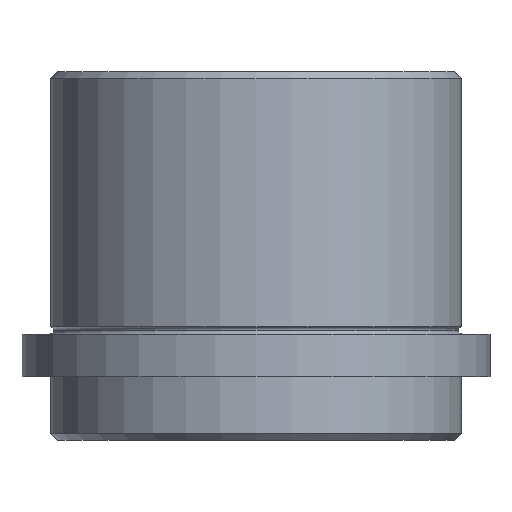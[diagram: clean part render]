
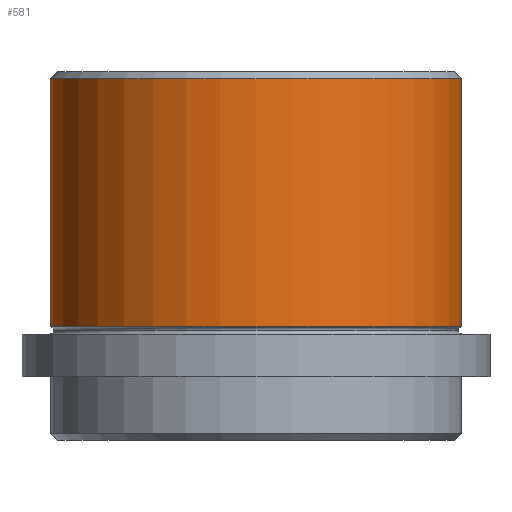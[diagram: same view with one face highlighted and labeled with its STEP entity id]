
A CAD part, front view. The second image highlights one B-rep face of the part: STEP entity #581.
In plain terms, the highlighted cylindrical face has radius 29 mm (diameter 58 mm), a partial arc.
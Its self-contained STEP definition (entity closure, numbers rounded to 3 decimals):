
#100 = LINE ( 'NONE', #424, #336 ) ;
#136 = AXIS2_PLACEMENT_3D ( 'NONE', #655, #654, #653 ) ;
#138 = ORIENTED_EDGE ( 'NONE', *, *, #630, .F. ) ;
#180 = CYLINDRICAL_SURFACE ( 'NONE', #793, 29. ) ;
#196 = CARTESIAN_POINT ( 'NONE',  ( 29., 0., -1. ) ) ;
#200 = CARTESIAN_POINT ( 'NONE',  ( -29., 0., -36. ) ) ;
#226 = EDGE_CURVE ( 'NONE', #770, #412, #671, .T. ) ;
#247 = DIRECTION ( 'NONE',  ( 0., 0., 1. ) ) ;
#253 = DIRECTION ( 'NONE',  ( 1., 0., 0. ) ) ;
#257 = DIRECTION ( 'NONE',  ( 0., 0., 1. ) ) ;
#259 = CARTESIAN_POINT ( 'NONE',  ( 0., 0., -36. ) ) ;
#267 = CARTESIAN_POINT ( 'NONE',  ( 29., 0., 0. ) ) ;
#334 = FACE_OUTER_BOUND ( 'NONE', #370, .T. ) ;
#336 = VECTOR ( 'NONE', #352, 1000. ) ;
#343 = ORIENTED_EDGE ( 'NONE', *, *, #464, .T. ) ;
#352 = DIRECTION ( 'NONE',  ( 0., 0., 1. ) ) ;
#370 = EDGE_LOOP ( 'NONE', ( #138, #421, #666, #343 ) ) ;
#407 = CARTESIAN_POINT ( 'NONE',  ( -29., 0., -1. ) ) ;
#412 = VERTEX_POINT ( 'NONE', #759 ) ;
#421 = ORIENTED_EDGE ( 'NONE', *, *, #226, .T. ) ;
#424 = CARTESIAN_POINT ( 'NONE',  ( -29., 0., 0. ) ) ;
#450 = CARTESIAN_POINT ( 'NONE',  ( 0., 0., 0. ) ) ;
#460 = DIRECTION ( 'NONE',  ( 1., 0., 0. ) ) ;
#464 = EDGE_CURVE ( 'NONE', #762, #614, #821, .T. ) ;
#488 = DIRECTION ( 'NONE',  ( 0., 0., 1. ) ) ;
#495 = AXIS2_PLACEMENT_3D ( 'NONE', #259, #247, #253 ) ;
#548 = VECTOR ( 'NONE', #257, 1000. ) ;
#581 = ADVANCED_FACE ( 'NONE', ( #334 ), #180, .T. ) ;
#614 = VERTEX_POINT ( 'NONE', #407 ) ;
#630 = EDGE_CURVE ( 'NONE', #770, #614, #100, .T. ) ;
#653 = DIRECTION ( 'NONE',  ( -1., 0., 0. ) ) ;
#654 = DIRECTION ( 'NONE',  ( 0., 0., -1. ) ) ;
#655 = CARTESIAN_POINT ( 'NONE',  ( 0., 0., -1. ) ) ;
#666 = ORIENTED_EDGE ( 'NONE', *, *, #714, .T. ) ;
#669 = LINE ( 'NONE', #267, #548 ) ;
#671 = CIRCLE ( 'NONE', #495, 29. ) ;
#714 = EDGE_CURVE ( 'NONE', #412, #762, #669, .T. ) ;
#759 = CARTESIAN_POINT ( 'NONE',  ( 29., 0., -36. ) ) ;
#762 = VERTEX_POINT ( 'NONE', #196 ) ;
#770 = VERTEX_POINT ( 'NONE', #200 ) ;
#793 = AXIS2_PLACEMENT_3D ( 'NONE', #450, #488, #460 ) ;
#821 = CIRCLE ( 'NONE', #136, 29. ) ;
